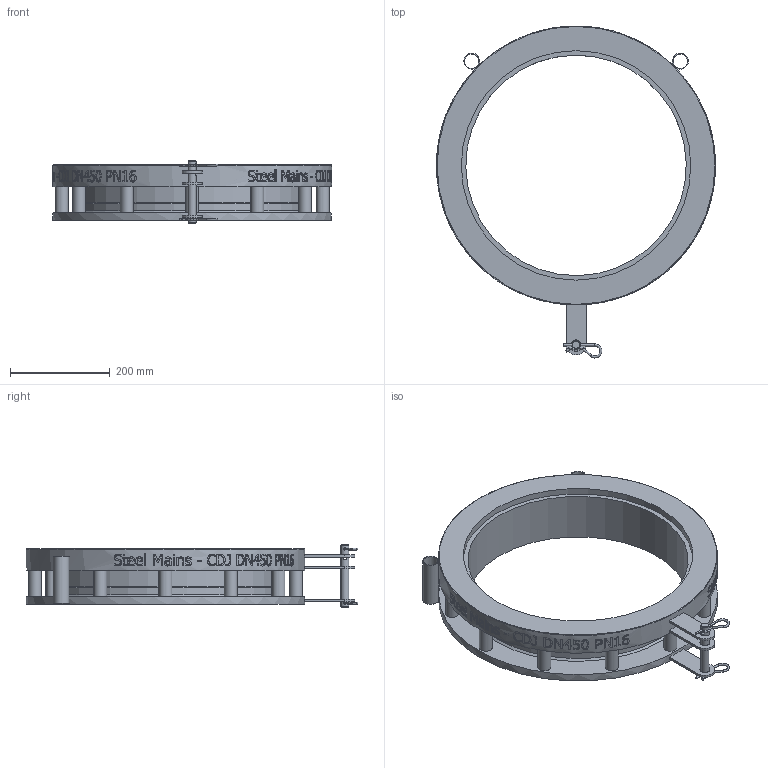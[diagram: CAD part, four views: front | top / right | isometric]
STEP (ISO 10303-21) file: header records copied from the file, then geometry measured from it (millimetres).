
FILE_DESCRIPTION(/* description */ (''),/* implementation_level */ '2;1');
FILE_NAME(/* name */ 'C:\Vault\Designs\Somerton\196\196-14 Models\Marketing Files\SteelMains - CDJ DN450 PN16 - (196-14T rev C).stp',/* time_stamp */ '2025-08-19T10:15:01+10:00',/* author */ ('cameron.ferguson'),/* organization */ (''),/* preprocessor_version */ 'ST-DEVELOPER v18.1',/* originating_system */ 'Autodesk Inventor 2021',/* authorisation */ '');
FILE_SCHEMA (('AUTOMOTIVE_DESIGN { 1 0 10303 214 3 1 1 }'));
Length unit declared in the file: millimetre
Products named in the file (1): SPS_ENG-049105
Bounding box: 558.1 x 664.01 x 125 mm (x, y, z)
Volume: 6248770.9 mm3; surface area: 793090 mm2
Topology: 9 solids, 9 shells, 824 faces, 2227 edges, 1486 vertices
Faces by surface type: bspline 370, plane 325, cylinder 116, torus 8, cone 5
Full cylindrical faces by diameter (mm): 4 x9, 5 x2, 16 x1, 20 x3, 26 x12, 28.8 x2, 32 x2, 441 x1, 453 x1, 457 x1, 459 x1, 558 x1
Entity records: 35625 total; most frequent: CARTESIAN_POINT 16741, ORIENTED_EDGE 4460, DIRECTION 2791, EDGE_CURVE 2230, VERTEX_POINT 1489, LINE 1053, VECTOR 1053, EDGE_LOOP 931
